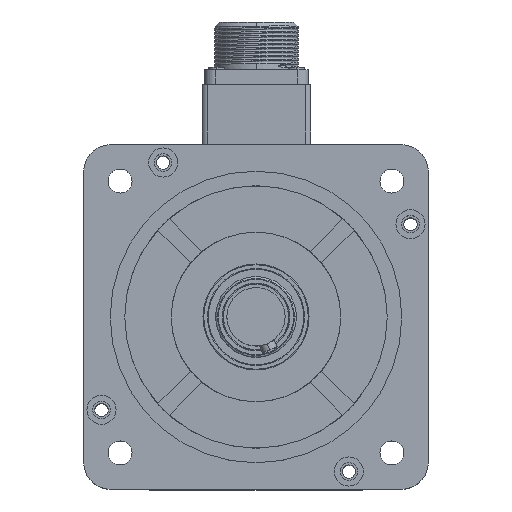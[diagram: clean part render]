
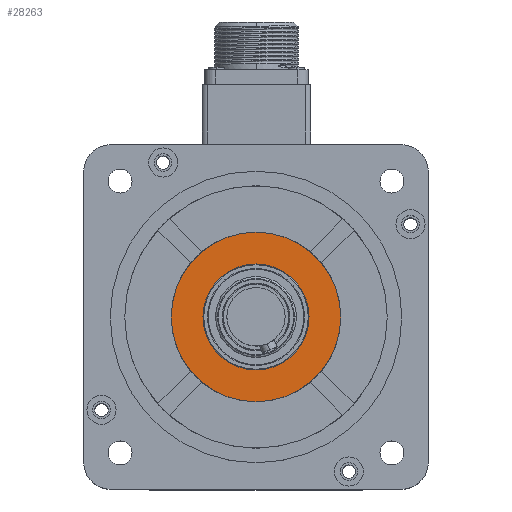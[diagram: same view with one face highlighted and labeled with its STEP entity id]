
A CAD part, top view. The second image highlights one B-rep face of the part: STEP entity #28263.
In plain terms, the highlighted planar face has unit normal (0, 0, 1) as drawn and (1, 0, 0) by its records, which use the part's own axes.
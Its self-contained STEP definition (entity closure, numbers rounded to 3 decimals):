
#859 = DIRECTION ( 'NONE',  ( -1., 0., 0. ) ) ;
#1087 = EDGE_CURVE ( 'NONE', #33727, #28695, #7539, .T. ) ;
#1440 = AXIS2_PLACEMENT_3D ( 'NONE', #7570, #32164, #11126 ) ;
#2436 = ORIENTED_EDGE ( 'NONE', *, *, #1087, .F. ) ;
#2472 = ORIENTED_EDGE ( 'NONE', *, *, #30600, .T. ) ;
#5984 = AXIS2_PLACEMENT_3D ( 'NONE', #39310, #11305, #35909 ) ;
#7228 = CARTESIAN_POINT ( 'NONE',  ( 30., 0., -32. ) ) ;
#7539 = CIRCLE ( 'NONE', #1440, 32. ) ;
#7570 = CARTESIAN_POINT ( 'NONE',  ( 30., 0., 0. ) ) ;
#7657 = CARTESIAN_POINT ( 'NONE',  ( 30., 0., 32. ) ) ;
#9891 = DIRECTION ( 'NONE',  ( -1., 0., 0. ) ) ;
#11126 = DIRECTION ( 'NONE',  ( 0., 0., 1. ) ) ;
#11305 = DIRECTION ( 'NONE',  ( -1., 0., 0. ) ) ;
#14936 = CARTESIAN_POINT ( 'NONE',  ( 30., 0., 0. ) ) ;
#15604 = ORIENTED_EDGE ( 'NONE', *, *, #21813, .F. ) ;
#15653 = CARTESIAN_POINT ( 'NONE',  ( 30., 0., -20. ) ) ;
#18103 = EDGE_LOOP ( 'NONE', ( #45629, #2472 ) ) ;
#18484 = DIRECTION ( 'NONE',  ( 0., 0., 1. ) ) ;
#20639 = AXIS2_PLACEMENT_3D ( 'NONE', #30949, #9891, #34484 ) ;
#21316 = VERTEX_POINT ( 'NONE', #15653 ) ;
#21813 = EDGE_CURVE ( 'NONE', #28695, #33727, #26890, .T. ) ;
#21928 = CARTESIAN_POINT ( 'NONE',  ( 30., 0., 0. ) ) ;
#22140 = VERTEX_POINT ( 'NONE', #29120 ) ;
#25266 = PLANE ( 'NONE',  #5984 ) ;
#25430 = DIRECTION ( 'NONE',  ( 0., 0., 1. ) ) ;
#26890 = CIRCLE ( 'NONE', #43301, 32. ) ;
#27244 = EDGE_CURVE ( 'NONE', #22140, #21316, #30343, .T. ) ;
#28263 = ADVANCED_FACE ( 'NONE', ( #35299, #44661 ), #25266, .F. ) ;
#28695 = VERTEX_POINT ( 'NONE', #7228 ) ;
#29120 = CARTESIAN_POINT ( 'NONE',  ( 30., 0., 20. ) ) ;
#30343 = CIRCLE ( 'NONE', #42545, 20. ) ;
#30600 = EDGE_CURVE ( 'NONE', #21316, #22140, #41183, .T. ) ;
#30949 = CARTESIAN_POINT ( 'NONE',  ( 30., 0., 0. ) ) ;
#32164 = DIRECTION ( 'NONE',  ( -1., 0., 0. ) ) ;
#32991 = EDGE_LOOP ( 'NONE', ( #2436, #15604 ) ) ;
#33727 = VERTEX_POINT ( 'NONE', #7657 ) ;
#34484 = DIRECTION ( 'NONE',  ( 0., 0., 1. ) ) ;
#35299 = FACE_OUTER_BOUND ( 'NONE', #32991, .T. ) ;
#35909 = DIRECTION ( 'NONE',  ( 0., 0., 1. ) ) ;
#39310 = CARTESIAN_POINT ( 'NONE',  ( 30., 20., 0. ) ) ;
#39563 = DIRECTION ( 'NONE',  ( -1., 0., 0. ) ) ;
#41183 = CIRCLE ( 'NONE', #20639, 20. ) ;
#42545 = AXIS2_PLACEMENT_3D ( 'NONE', #14936, #39563, #18484 ) ;
#43301 = AXIS2_PLACEMENT_3D ( 'NONE', #21928, #859, #25430 ) ;
#44661 = FACE_BOUND ( 'NONE', #18103, .T. ) ;
#45629 = ORIENTED_EDGE ( 'NONE', *, *, #27244, .T. ) ;
